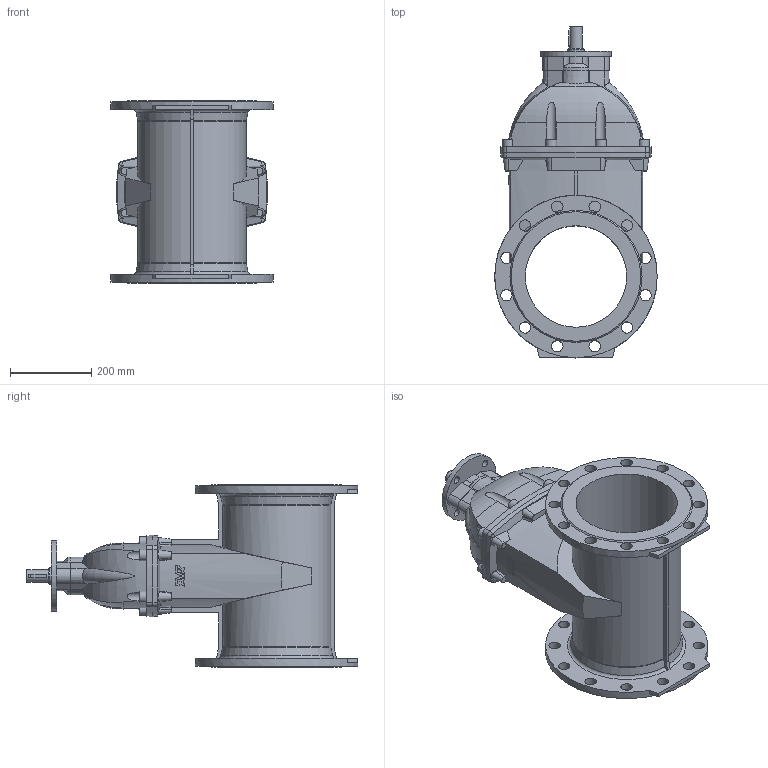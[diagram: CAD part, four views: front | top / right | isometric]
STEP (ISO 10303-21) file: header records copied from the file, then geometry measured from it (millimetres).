
FILE_DESCRIPTION (( 'STEP AP203' ), '1' );
FILE_NAME ('O_15_72_DN250_X1X_AA0.step', '2017-03-10T09:00:04', ( 'Windows User' ), ( 'AVK' ), 'SwSTEP 2.0', 'SolidWorks 2012', '' );
FILE_SCHEMA (( 'CONFIG_CONTROL_DESIGN' ));
Length unit declared in the file: millimetre
Products named in the file (1): O_15_72_DN250_X1X_AA0
Bounding box: 400 x 817 x 450 mm (x, y, z)
Volume: 24088163.4 mm3; surface area: 1500995.9 mm2
Topology: 1 solids, 1 shells, 319 faces, 910 edges, 602 vertices
Faces by surface type: plane 110, cylinder 75, cone 64, bspline 54, torus 16
Full cylindrical faces by diameter (mm): 18 x4, 28 x24, 30 x1, 40 x1, 175 x1, 250 x1, 400 x2
Entity records: 13435 total; most frequent: CARTESIAN_POINT 5858, ORIENTED_EDGE 1676, DIRECTION 1326, EDGE_CURVE 838, VERTEX_POINT 572, AXIS2_PLACEMENT_3D 556, EDGE_LOOP 428, FACE_OUTER_BOUND 353
